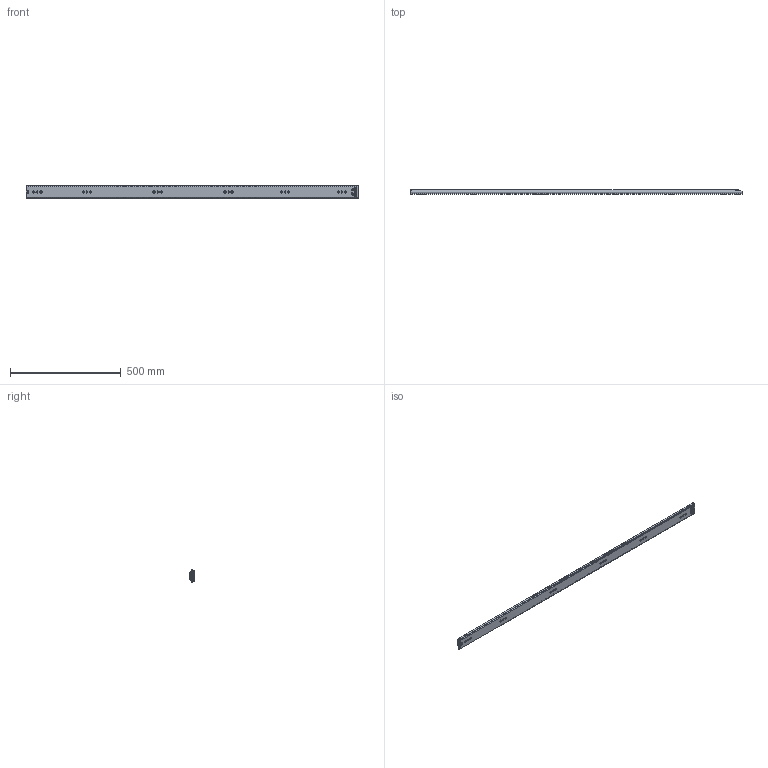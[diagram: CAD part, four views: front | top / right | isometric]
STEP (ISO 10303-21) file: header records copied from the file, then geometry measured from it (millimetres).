
FILE_DESCRIPTION((''),'2;1');
FILE_NAME('DG-57-01ZUZHUANGTU-60_ASM','2024-03-22T',('jishu015'),(''),'PRO/ENGINEER BY PARAMETRIC TECHNOLOGY CORPORATION, 2010280','PRO/ENGINEER BY PARAMETRIC TECHNOLOGY CORPORATION, 2010280','');
FILE_SCHEMA(('CONFIG_CONTROL_DESIGN'));
Products named in the file (15): KP-57-01WEIKE-32____; 1057WEIJIAO_________; 1057DAZHUJIA-20GE_____; 1057ZHUJIADANWEIJIAO_________; 1057-5-6GANZHU_________; 1057DAZHUJIA-20GE__________ASM; KP-57-01ZHONGGUI-18_________; ZHIDI________; KP-57-01ZHONGGUI-18__________ASM; 1057XIAOZHUJIA___20_____; 1057XIAOZHUJIA-20GE______ASM; KP-57-01NEIGUI-24_____; CHA-1________; KP-57-01NEIGUI-24______ASM; DG-57-01ZUZHUANGTU-60_ASM
Assembly tree (238 placements, depth 3):
  DG-57-01ZUZHUANGTU-60_ASM
    KP-57-01WEIKE-32____
    1057WEIJIAO_________
    1057DAZHUJIA-20GE__________ASM
      1057DAZHUJIA-20GE_____
      1057ZHUJIADANWEIJIAO_________  x2
      1057-5-6GANZHU_________  x112
    KP-57-01ZHONGGUI-18__________ASM
      KP-57-01ZHONGGUI-18_________
      ZHIDI________
    1057XIAOZHUJIA-20GE______ASM
      1057XIAOZHUJIA___20_____
      1057-5-6GANZHU_________  x112
    KP-57-01NEIGUI-24______ASM
      KP-57-01NEIGUI-24_____
      CHA-1________
Bounding box: 1500 x 19.2 x 57.67 mm (x, y, z)
Volume: 663439.3 mm3; surface area: 775048.1 mm2
Topology: 234 solids, 234 shells, 5408 faces, 15217 edges, 9373 vertices
Faces by surface type: plane 2482, cylinder 2266, sphere 452, bspline 108, cone 94, torus 6
Entity records: 166089 total; most frequent: CARTESIAN_POINT 33008, DIRECTION 28386, ORIENTED_EDGE 27570, EDGE_CURVE 13785, AXIS2_PLACEMENT_3D 9725, VECTOR 8936, LINE 8936, VERTEX_POINT 8870
